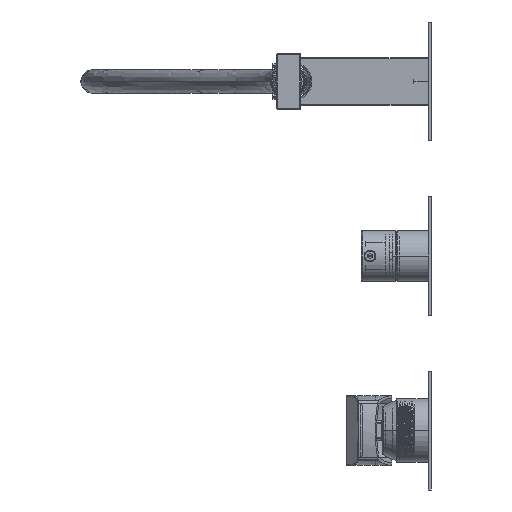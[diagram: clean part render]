
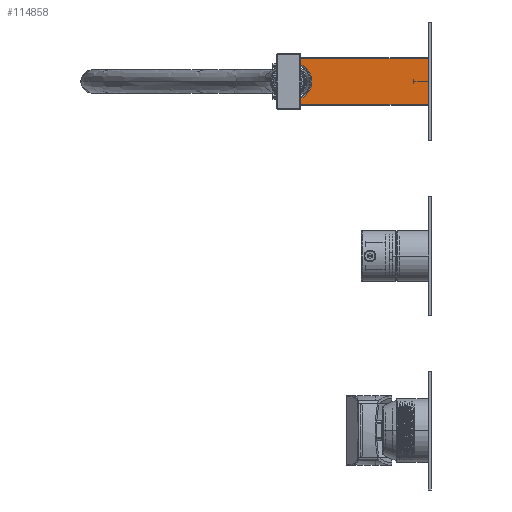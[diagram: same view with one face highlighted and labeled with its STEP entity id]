
A CAD part, left-side view. The second image highlights one B-rep face of the part: STEP entity #114858.
In plain terms, the highlighted planar face has unit normal (-1, 0, 0).
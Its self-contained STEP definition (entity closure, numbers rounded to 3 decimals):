
#99015=CARTESIAN_POINT('',(-11.,165.,110.));
#99016=DIRECTION('',(1.,0.,0.));
#99017=DIRECTION('',(0.,-0.052,-0.999));
#99018=AXIS2_PLACEMENT_3D('',#99015,#99016,#99017);
#99020=CARTESIAN_POINT('',(-11.,162.,110.));
#99021=DIRECTION('',(1.,0.,0.));
#99022=DIRECTION('',(0.,0.207,0.978));
#99023=AXIS2_PLACEMENT_3D('',#99020,#99021,#99022);
#99025=CARTESIAN_POINT('',(-11.,165.,110.));
#99026=DIRECTION('',(1.,0.,0.));
#99027=DIRECTION('',(0.,0.009,1.));
#99028=AXIS2_PLACEMENT_3D('',#99025,#99026,#99027);
#99030=DIRECTION('',(0.,0.,-1.));
#99031=VECTOR('',#99030,3.13);
#99032=CARTESIAN_POINT('',(-11.,165.1,124.5));
#99033=LINE('',#99032,#99031);
#99034=DIRECTION('',(0.,-1.,0.));
#99035=VECTOR('',#99034,88.1);
#99036=CARTESIAN_POINT('',(-11.,165.1,124.5));
#99037=LINE('',#99036,#99035);
#99038=DIRECTION('',(0.,0.,1.));
#99039=VECTOR('',#99038,29.);
#99040=CARTESIAN_POINT('',(-11.,77.,95.5));
#99041=LINE('',#99040,#99039);
#99042=DIRECTION('',(0.,1.,0.));
#99043=VECTOR('',#99042,88.109);
#99044=CARTESIAN_POINT('',(-11.,77.,95.5));
#99045=LINE('',#99044,#99043);
#99046=DIRECTION('',(0.,0.,-1.));
#99047=VECTOR('',#99046,3.131);
#99048=CARTESIAN_POINT('',(-11.,165.109,98.631));
#99049=LINE('',#99048,#99047);
#110492=CARTESIAN_POINT('',(-11.,165.109,95.5));
#110494=VERTEX_POINT('',#110492);
#110526=CARTESIAN_POINT('',(-11.,165.1,124.5));
#110527=VERTEX_POINT('',#110526);
#110578=CARTESIAN_POINT('',(-11.,77.,95.5));
#110579=CARTESIAN_POINT('',(-11.,77.,124.5));
#110580=VERTEX_POINT('',#110578);
#110581=VERTEX_POINT('',#110579);
#110817=CARTESIAN_POINT('',(-11.,164.404,98.646));
#110818=CARTESIAN_POINT('',(-11.,165.109,98.631));
#110819=VERTEX_POINT('',#110817);
#110820=VERTEX_POINT('',#110818);
#110821=CARTESIAN_POINT('',(-11.,165.1,121.37));
#110822=CARTESIAN_POINT('',(-11.,164.404,121.354));
#110823=VERTEX_POINT('',#110821);
#110824=VERTEX_POINT('',#110822);
#114838=CARTESIAN_POINT('',(-11.,77.,125.));
#114839=DIRECTION('',(1.,0.,0.));
#114840=DIRECTION('',(0.,1.,0.));
#114841=AXIS2_PLACEMENT_3D('',#114838,#114839,#114840);
#114842=PLANE('',#114841);
#114843=ORIENTED_EDGE('',*,*,#114808,.F.);
#114844=ORIENTED_EDGE('',*,*,#114833,.F.);
#114845=ORIENTED_EDGE('',*,*,#114770,.F.);
#114847=ORIENTED_EDGE('',*,*,#114846,.F.);
#114849=ORIENTED_EDGE('',*,*,#114848,.T.);
#114851=ORIENTED_EDGE('',*,*,#114850,.F.);
#114853=ORIENTED_EDGE('',*,*,#114852,.T.);
#114855=ORIENTED_EDGE('',*,*,#114854,.F.);
#114856=EDGE_LOOP('',(#114843,#114844,#114845,#114847,#114849,#114851,#114853,
#114855));
#114857=FACE_OUTER_BOUND('',#114856,.F.);
#114858=ADVANCED_FACE('',(#114857),#114842,.F.);
#99019=CIRCLE('',#99018,11.37);
#99024=CIRCLE('',#99023,11.606);
#99029=CIRCLE('',#99028,11.37);
#114770=EDGE_CURVE('',#110823,#110824,#99029,.T.);
#114808=EDGE_CURVE('',#110819,#110820,#99019,.T.);
#114833=EDGE_CURVE('',#110824,#110819,#99024,.T.);
#114846=EDGE_CURVE('',#110527,#110823,#99033,.T.);
#114848=EDGE_CURVE('',#110527,#110581,#99037,.T.);
#114850=EDGE_CURVE('',#110580,#110581,#99041,.T.);
#114852=EDGE_CURVE('',#110580,#110494,#99045,.T.);
#114854=EDGE_CURVE('',#110820,#110494,#99049,.T.);
